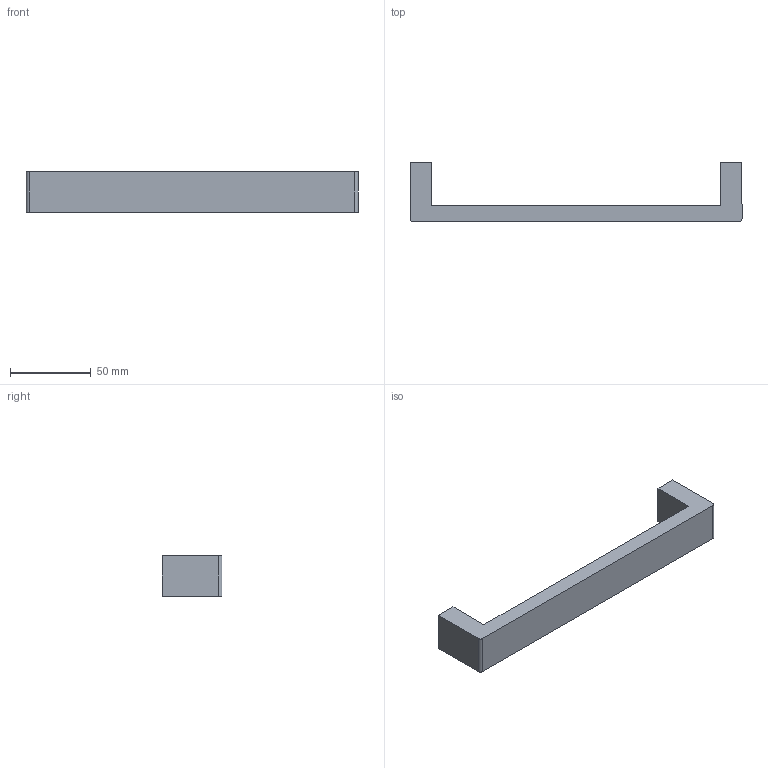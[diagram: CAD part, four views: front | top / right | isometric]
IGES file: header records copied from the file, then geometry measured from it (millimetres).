
Start section: Data from Parasolid IGES Translator 15.0.47, Copyright(c) 2006 Siemens P LM Software. All Rights Reserved.
Global section: file name: 115060.igs; native system:  By UGS Corp.; preprocessor: XPlus GENERIC/IGES 3.0; author: Noname; organization: Noname; date: 20140122.172807; units: millimetre
Bounding box: 205 x 37 x 25 mm (x, y, z)
Surface area: 19108.7 mm2 (no closed solid volume)
Topology: 0 solids, 0 shells, 16 faces, 72 edges, 70 vertices
Faces by surface type: extrusion 12, revolution 4
